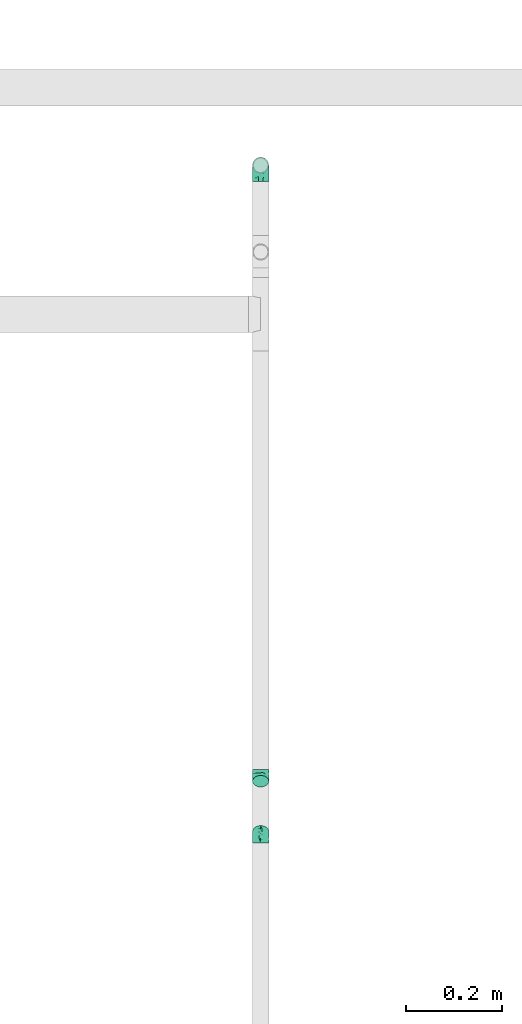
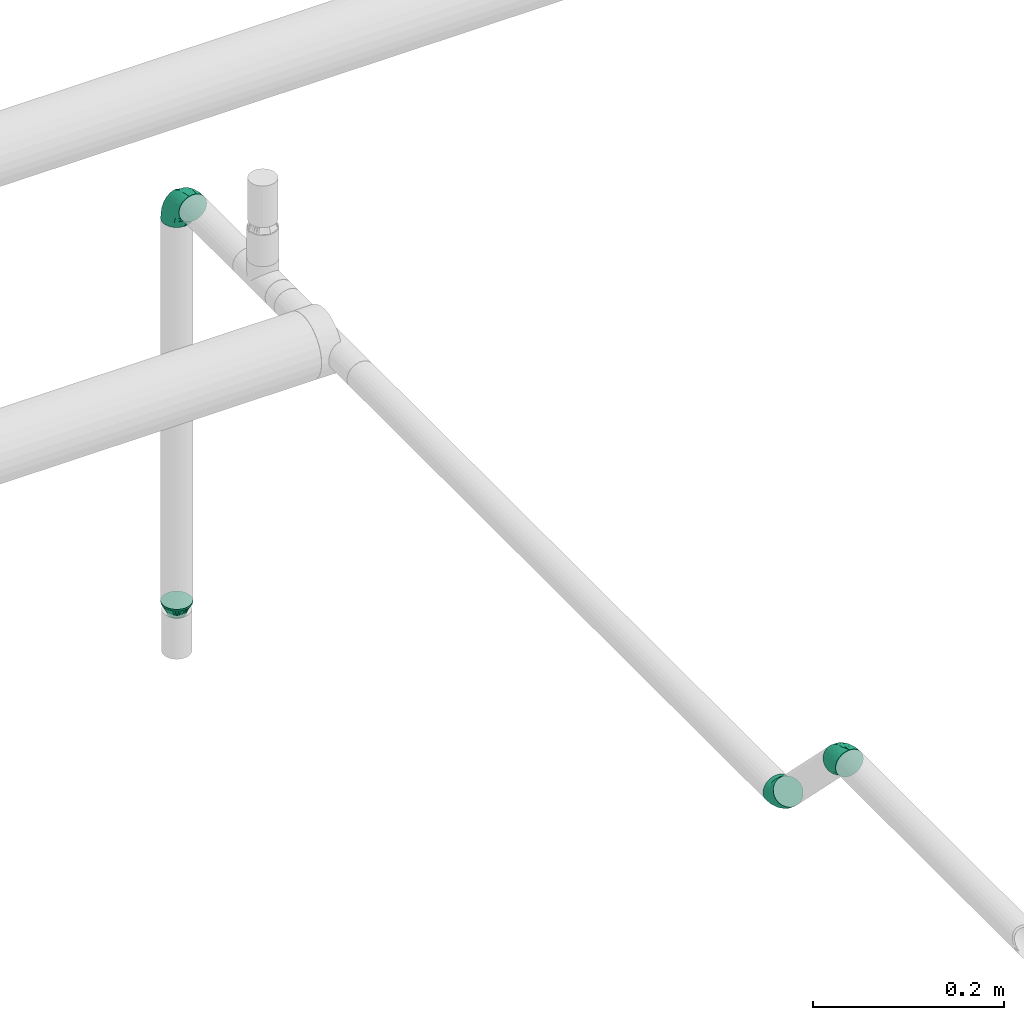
# One storey, part 17 of 51: 4 flow fittings.
"""IFC2X3 building model written with IfcOpenShell, lengths in millimetres."""

from ifc_helpers import new_model, entity, si_unit, converted_unit, derived_unit, direction, frame, origin_with_axes, place, context, subcontext, project, spatial, open_shell, surface_model, source, transform, mapped, type_object, element, save


model = new_model("IFC2X3")

# Units and contexts
model_context = context("Model", 3, precision=0.01, world=frame((0.0, 4.29681676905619e-09, 0.0)), true_north=direction((4.01073788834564e-13, 1.0)))
plan_context = context("Plan", 3, precision=0.01, world=frame((0.0, 4.29681676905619e-09, 0.0)), true_north=direction((4.01073788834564e-13, 1.0)))
body_context = subcontext(model_context, "Body", "Model", "MODEL_VIEW")
ifc_project = project(units=[converted_unit("PLANEANGLEUNIT", "DEGREE", entity("IfcPositiveLengthMeasure", 0.0174532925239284), si_unit("PLANEANGLEUNIT", "RADIAN"), dimensions=[0, 0, 0, 0, 0, 0, 0]), si_unit("AREAUNIT", "SQUARE_METRE"), si_unit("LENGTHUNIT", "METRE", prefix="MILLI"), si_unit("MASSUNIT", "GRAM", prefix="KILO"), si_unit("POWERUNIT", "WATT"), si_unit("PRESSUREUNIT", "PASCAL"), si_unit("FORCEUNIT", "NEWTON", prefix="KILO"), si_unit("ELECTRICVOLTAGEUNIT", "VOLT"), si_unit("ELECTRICCURRENTUNIT", "AMPERE"), si_unit("THERMODYNAMICTEMPERATUREUNIT", "DEGREE_CELSIUS"), si_unit("TIMEUNIT", "SECOND"), si_unit("VOLUMEUNIT", "CUBIC_METRE"), derived_unit("LINEARVELOCITYUNIT", [(si_unit("LENGTHUNIT", "METRE"), 1), (si_unit("TIMEUNIT", "SECOND"), -1)]), derived_unit("VOLUMETRICFLOWRATEUNIT", [(si_unit("VOLUMEUNIT", "CUBIC_METRE"), 1), (si_unit("TIMEUNIT", "SECOND"), -1)]), derived_unit("THERMALTRANSMITTANCEUNIT", [(si_unit("POWERUNIT", "WATT"), 1), (si_unit("THERMODYNAMICTEMPERATUREUNIT", "KELVIN"), -1), (si_unit("AREAUNIT", "SQUARE_METRE"), -1)]), derived_unit("SOUNDPRESSUREUNIT", [(si_unit("PRESSUREUNIT", "PASCAL"), 1)])], contexts=[model_context, plan_context])

# Site, building, storey
site_placement = place(None, frame((0.0, -4.29681676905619e-09, 0.0), z_axis=(0.0, 0.0, 1.0), x_axis=(1.0, 0.0, 0.0)))
site = spatial("IfcSite", under=ifc_project, at=site_placement, Name="ENGM", CompositionType="ELEMENT")
building_placement = place(site_placement, frame((0.0, 4.29681676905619e-09, 0.0), z_axis=(0.0, 0.0, 1.0), x_axis=(1.0, 0.0, 0.0)))
building = spatial("IfcBuilding", under=site, at=building_placement, Name="TH", CompositionType="ELEMENT")
storey_placement = place(building_placement, frame((0.0, 0.0, 210200.0), z_axis=(0.0, 0.0, 1.0), x_axis=(1.0, 0.0, 0.0)))
storey = spatial("IfcBuildingStorey", under=building, at=storey_placement, Name="Nivå F - 0,7 m", CompositionType="ELEMENT", Elevation=210200.0)

# Flow fittings
pipe_fitting_type_1 = type_object("IfcPipeFittingType", Name="magi_pipe_fe_elbow_short_001", PredefinedType="BEND")
shared_shape_1 = source(origin_with_axes(), body_context, "Body", "SurfaceModel", [
    surface_model("IfcShellBasedSurfaceModel", [(-33.8, 8.45, -14.63583), (-33.8, 4.37404, -16.32415), (-33.8, 11.9501, -11.9501), (-33.8, -11.9501, -11.9501), (-33.8, -14.63583, -8.45), (-33.8, -8.45, -14.63583), (-33.8, 0.0, -16.9), (-33.8, -4.37404, -16.32415), (-33.8, -4.37404, 16.32415), (-33.8, 0.0, 16.9), (-33.8, -8.45, 14.63583), (-33.8, 16.32415, -4.37404), (-33.8, 14.63583, -8.45), (-33.8, -16.32415, -4.37404), (-33.8, -16.9, 0.0), (-33.8, -16.32415, 4.37404), (-33.8, 11.9501, 11.9501), (-33.8, 14.63583, 8.45), (-33.8, 16.32415, 4.37404), (-33.8, 4.37404, 16.32415), (-33.8, 8.45, 14.63583), (-33.8, -14.63583, 8.45), (-33.8, -11.9501, 11.9501), (-33.8, 16.9, 0.0), (-11.9501, 33.8, -11.9501), (0.0, 33.8, -16.9), (-4.37404, 33.8, -16.32415), (-8.45, 33.8, -14.63583), (-14.63583, 33.8, -8.45), (-16.32415, 33.8, -4.37404), (14.63583, 33.8, -8.45), (8.45, 33.8, 14.63583), (16.32415, 33.8, -4.37404), (8.45, 33.8, -14.63583), (11.9501, 33.8, -11.9501), (4.37404, 33.8, -16.32415), (16.32415, 33.8, 4.37404), (16.9, 33.8, 0.0), (-11.9501, 33.8, 11.9501), (-16.32415, 33.8, 4.37404), (-14.63583, 33.8, 8.45), (-8.45, 33.8, 14.63583), (-4.37404, 33.8, 16.32415), (11.9501, 33.8, 11.9501), (14.63583, 33.8, 8.45), (0.0, 33.8, 16.9), (4.37404, 33.8, 16.32415), (-16.9, 33.8, 0.0), (-24.79389, -13.12945, 9.48721), (-22.19287, -9.75018, 12.59315), (-24.09897, -14.97035, 0.0), (-14.93934, -10.76256, 8.5297), (-22.46095, -14.75051, 5.27077), (14.75051, 22.46094, 5.27077), (11.9251, 13.23888, 4.33236), (13.04069, 14.39795, 0.0), (7.71387, 13.68847, 11.55891), (9.75018, 22.19287, 12.59315), (4.10169, 13.0571, 14.04018), (-24.84007, -6.39063, 15.2048), (-25.81779, -2.23879, 16.61097), (-23.66549, 2.59054, 16.87119), (-26.50418, 14.06512, 11.08152), (-24.21253, 17.66365, 7.72657), (-29.58514, 15.86957, 7.00283), (-6.17382, -7.5455, 0.0), (-13.23888, -11.9251, 4.33236), (-14.39795, -13.04069, 0.0), (-17.81434, 18.87373, 11.97104), (-6.30846, 29.15138, 15.82987), (-2.31622, 25.28002, 16.85849), (-29.23923, 10.23435, 13.77053), (-1.45439, -2.85688, 7.61475), (-0.28326, 0.34872, 10.09509), (-5.74484, -4.04709, 10.4122), (-4.41137, 11.31918, 16.59407), (-8.39727, 3.10034, 15.7812), (-1.72649, 9.1306, 15.53089), (-17.39909, 24.75344, 7.64977), (-26.19233, 20.0512, 0.0), (-28.14518, 17.29657, 4.25857), (-26.05147, 6.6281, 15.96447), (-5.87354, 16.61944, 16.86968), (-12.51807, 12.51807, 16.48937), (-10.06312, 7.38516, 16.81295), (-3.01882, 3.01882, 13.81718), (-13.0571, -4.10169, 14.04018), (-16.82553, -0.15166, 16.38038), (10.76256, 14.93934, 8.5297), (13.12945, 24.79389, 9.48721), (6.39063, 24.84007, 15.2048), (2.23879, 25.81779, 16.61097), (-13.68847, -7.71387, 11.55891), (14.97035, 24.09897, 0.0), (-7.30894, 22.89991, 16.09489), (-10.67958, 26.17414, 14.008), (-12.78295, 18.26924, 15.06066), (-13.88562, 22.45231, 12.93244), (-18.04944, 15.16501, 14.04434), (-23.11658, 20.08178, 4.02986), (-21.84989, 21.84989, 0.0), (-18.55817, 25.48277, 3.93065), (-13.95142, 26.94732, 11.03289), (-18.57098, 7.23906, 16.59756), (-16.58335, 4.14122, 16.89279), (-17.96666, 11.46709, 15.63151), (-9.84453, 17.54304, 16.18938), (0.15166, 16.82553, 16.38038), (-23.27207, 11.47201, 14.23154), (3.84842, 5.86994, 10.70473), (-8.0212, -7.54413, 7.93275), (1.00345, -2.19508, 4.57414), (5.13203, 3.01004, 5.90201), (5.24161, 1.7543, 2.53265), (8.70457, 7.04947, 3.99182), (-20.0512, 26.19233, 0.0), (8.4852, 8.76699, 7.09296), (-4.55488, -6.72064, 4.90681), (2.05031, -2.05031, 0.0), (7.5455, 6.17382, 0.0), (-26.75399, 2.1369, -16.845), (-14.61995, 24.73803, -11.27736), (-28.45274, -13.45335, -9.81895), (-26.00469, 6.63555, -15.96645), (-23.06726, 20.04573, -4.26202), (-13.80647, -4.26506, -14.17873), (-14.67501, -0.21081, -16.07388), (-6.7902, -0.2828, -13.8478), (-24.53586, 11.08096, -14.13417), (-26.72048, 14.00837, -11.05776), (10.0967, 24.44989, -12.75976), (5.83237, 21.40218, -15.03047), (6.66249, 28.54238, -15.38093), (-20.38182, 15.48705, -12.74596), (12.53268, 21.23441, -9.15363), (12.54494, 15.67504, -5.54878), (9.7522, 12.89279, -8.66343), (-15.65186, 19.64213, -13.01327), (-12.03528, 20.66498, -14.67665), (-15.61907, 15.61906, -14.83879), (-25.56551, -15.26206, 0.0), (-24.65452, -15.12934, -5.50955), (13.45335, 28.45274, -9.81895), (15.12934, 24.65452, -5.50955), (-7.35442, -8.31014, -5.65563), (-15.67504, -12.54494, -5.54878), (-24.44989, -10.0967, -12.75976), (0.16522, 0.41303, -9.71728), (-5.70658, -5.33066, -8.89288), (-5.13869, -2.37198, -11.53565), (-21.23441, -12.53268, -9.15363), (0.71146, 7.93863, -14.09382), (0.21081, 14.67501, -16.07388), (3.49291, 14.42772, -14.76381), (-24.89911, -2.13088, -16.591), (-28.54238, -6.66249, -15.38093), (-18.44386, -7.71663, -13.26957), (2.13088, 24.89911, -16.591), (-28.64342, 17.44413, -2.89318), (1.70017, -1.28722, -5.09504), (-16.57067, 26.81947, -7.36596), (-17.69055, 27.4263, -3.76405), (-12.89279, -9.7522, -8.66343), (-5.96611, 5.96611, -15.95814), (-20.53709, 20.09345, -8.28985), (-2.1369, 26.75399, -16.845), (-6.89872, 24.58781, -16.02578), (-10.60739, 26.53157, -13.98044), (-21.40218, -5.83237, -15.03047), (2.93192, 5.89627, -11.55917), (6.89393, 12.61842, -11.82233), (5.58056, 5.95325, -8.79455), (-3.99512, 18.61798, -16.89635), (8.31014, 7.35442, -5.65563), (-9.1383, 9.86148, -16.89041), (-9.99983, 16.02119, -16.39699), (-16.68576, 9.78031, -16.34199), (-27.01915, 16.61158, -7.12979), (15.26206, 25.56551, 0.0), (-18.61798, 3.99512, -16.89635), (-19.37495, 27.82495, 0.0), (-12.61842, -6.89393, -11.82233), (-18.84705, 19.14018, -10.96545)], [open_shell([[[0, 1, 2]], [[3, 4, 5]], [[6, 7, 5]], [[8, 9, 10]], [[1, 6, 2]], [[11, 12, 2]], [[4, 2, 6]], [[2, 13, 10]], [[5, 4, 6]], [[2, 4, 13]], [[14, 15, 13]], [[11, 2, 16]], [[11, 17, 18]], [[11, 16, 17]], [[19, 20, 16]], [[16, 2, 10]], [[19, 16, 10]], [[21, 22, 15]], [[22, 13, 15]], [[22, 10, 13]], [[10, 9, 19]], [[11, 18, 23]], [[24, 25, 26]], [[24, 26, 27]], [[24, 28, 29]], [[25, 24, 30]], [[31, 32, 24]], [[33, 30, 34]], [[33, 35, 25]], [[25, 30, 33]], [[32, 30, 24]], [[32, 36, 37]], [[38, 24, 29]], [[39, 40, 29]], [[40, 38, 29]], [[38, 41, 42]], [[38, 31, 24]], [[31, 38, 42]], [[36, 43, 44]], [[36, 32, 43]], [[31, 45, 46]], [[32, 31, 43]], [[42, 45, 31]], [[39, 29, 47]], [[22, 48, 49]], [[15, 14, 50]], [[51, 48, 52]], [[53, 54, 55]], [[48, 22, 21]], [[15, 52, 21]], [[56, 57, 58]], [[49, 10, 22]], [[49, 59, 10]], [[9, 60, 61]], [[62, 63, 64]], [[65, 66, 67]], [[57, 43, 31]], [[62, 68, 63]], [[42, 69, 70]], [[20, 71, 16]], [[8, 60, 9]], [[72, 73, 74]], [[75, 76, 77]], [[16, 62, 17]], [[40, 39, 78]], [[79, 23, 80]], [[64, 18, 17]], [[9, 61, 19]], [[19, 81, 20]], [[82, 83, 84]], [[74, 85, 86]], [[59, 86, 87]], [[88, 89, 57]], [[90, 31, 46]], [[44, 53, 36]], [[46, 45, 91]], [[54, 53, 88]], [[44, 89, 53]], [[92, 86, 49]], [[89, 44, 43]], [[10, 59, 8]], [[53, 55, 93]], [[93, 36, 53]], [[66, 52, 67]], [[94, 82, 70]], [[95, 96, 94]], [[97, 98, 96]], [[79, 99, 100]], [[41, 38, 95]], [[101, 100, 99]], [[68, 78, 63]], [[42, 41, 69]], [[23, 18, 80]], [[95, 94, 69]], [[78, 101, 99]], [[38, 102, 95]], [[70, 45, 42]], [[97, 95, 102]], [[15, 50, 52]], [[90, 57, 31]], [[57, 90, 58]], [[81, 19, 61]], [[103, 104, 84]], [[105, 81, 103]], [[38, 40, 102]], [[106, 96, 83]], [[94, 106, 82]], [[91, 70, 107]], [[71, 62, 16]], [[62, 108, 98]], [[86, 59, 49]], [[67, 52, 50]], [[60, 59, 87]], [[92, 49, 51]], [[86, 85, 76]], [[91, 90, 46]], [[37, 36, 93]], [[107, 77, 58]], [[107, 58, 90]], [[58, 85, 109]], [[110, 74, 92]], [[72, 74, 110]], [[66, 51, 52]], [[72, 111, 112]], [[113, 114, 112]], [[56, 88, 57]], [[52, 48, 21]], [[49, 48, 51]], [[57, 89, 43]], [[53, 89, 88]], [[103, 81, 61]], [[71, 81, 108]], [[18, 64, 80]], [[63, 78, 99]], [[47, 115, 101]], [[101, 115, 100]], [[40, 78, 102]], [[68, 102, 78]], [[97, 96, 95]], [[105, 98, 108]], [[103, 84, 83]], [[107, 70, 82]], [[76, 84, 87]], [[82, 84, 75]], [[70, 91, 45]], [[90, 91, 107]], [[59, 60, 8]], [[61, 60, 87]], [[73, 85, 74]], [[109, 112, 116]], [[103, 61, 104]], [[105, 103, 83]], [[96, 105, 83]], [[81, 105, 108]], [[96, 98, 105]], [[62, 98, 68]], [[61, 87, 104]], [[87, 84, 104]], [[86, 76, 87]], [[77, 76, 85]], [[58, 77, 85]], [[75, 77, 107]], [[82, 75, 107]], [[76, 75, 84]], [[81, 71, 20]], [[62, 71, 108]], [[95, 69, 41]], [[70, 69, 94]], [[62, 64, 17]], [[80, 63, 99]], [[63, 80, 64]], [[80, 99, 79]], [[66, 65, 117]], [[110, 66, 117]], [[112, 114, 116]], [[118, 117, 65]], [[110, 92, 51]], [[112, 111, 113]], [[119, 55, 54]], [[74, 86, 92]], [[58, 109, 56]], [[116, 56, 109]], [[66, 110, 51]], [[72, 110, 117]], [[111, 72, 117]], [[73, 112, 109]], [[117, 118, 111]], [[113, 111, 118]], [[118, 119, 113]], [[114, 119, 54]], [[119, 114, 113]], [[116, 54, 88]], [[54, 116, 114]], [[116, 88, 56]], [[112, 73, 72]], [[85, 73, 109]], [[78, 39, 101]], [[47, 101, 39]], [[102, 68, 97]], [[97, 68, 98]], [[82, 106, 83]], [[94, 96, 106]], [[1, 120, 6]], [[28, 24, 121]], [[3, 122, 4]], [[0, 123, 1]], [[100, 124, 79]], [[125, 126, 127]], [[128, 2, 129]], [[130, 131, 132]], [[128, 129, 133]], [[134, 135, 136]], [[137, 138, 139]], [[128, 0, 2]], [[67, 140, 141]], [[134, 142, 143]], [[141, 13, 4]], [[144, 65, 145]], [[146, 3, 5]], [[147, 148, 149]], [[145, 141, 150]], [[151, 152, 153]], [[154, 7, 6]], [[5, 155, 146]], [[150, 146, 156]], [[155, 5, 7]], [[143, 135, 134]], [[35, 157, 25]], [[23, 79, 158]], [[148, 159, 144]], [[160, 161, 29]], [[145, 162, 144]], [[163, 152, 151]], [[29, 28, 160]], [[121, 164, 160]], [[33, 34, 130]], [[25, 165, 26]], [[26, 165, 166]], [[142, 34, 30]], [[24, 27, 167]], [[124, 161, 164]], [[157, 35, 132]], [[155, 154, 168]], [[123, 0, 128]], [[169, 170, 171]], [[172, 157, 152]], [[26, 166, 27]], [[132, 35, 33]], [[142, 130, 34]], [[168, 154, 126]], [[136, 135, 173]], [[133, 137, 139]], [[2, 12, 129]], [[170, 131, 130]], [[30, 32, 143]], [[172, 174, 175]], [[176, 123, 128]], [[158, 177, 11]], [[135, 55, 119]], [[167, 27, 166]], [[175, 166, 172]], [[137, 167, 138]], [[122, 141, 4]], [[140, 14, 13]], [[32, 37, 178]], [[170, 130, 134]], [[152, 157, 131]], [[165, 157, 172]], [[153, 170, 151]], [[152, 163, 174]], [[168, 125, 156]], [[122, 146, 150]], [[120, 154, 6]], [[179, 174, 126]], [[179, 126, 154]], [[126, 163, 127]], [[162, 145, 150]], [[140, 13, 141]], [[32, 178, 143]], [[55, 143, 178]], [[177, 129, 12]], [[128, 133, 139]], [[176, 128, 139]], [[120, 123, 179]], [[121, 160, 28]], [[161, 100, 180]], [[166, 175, 138]], [[121, 24, 167]], [[161, 47, 29]], [[79, 124, 158]], [[124, 164, 177]], [[161, 124, 100]], [[136, 171, 170]], [[127, 163, 151]], [[147, 171, 159]], [[148, 144, 162]], [[127, 151, 169]], [[127, 181, 125]], [[129, 177, 164]], [[12, 11, 177]], [[159, 65, 144]], [[67, 141, 145]], [[143, 55, 135]], [[135, 119, 173]], [[123, 120, 1]], [[154, 120, 179]], [[157, 165, 25]], [[166, 165, 172]], [[172, 152, 174]], [[176, 139, 175]], [[126, 174, 163]], [[176, 174, 179]], [[174, 176, 175]], [[123, 176, 179]], [[150, 181, 162]], [[127, 149, 181]], [[181, 148, 162]], [[159, 148, 147]], [[171, 136, 173]], [[170, 134, 136]], [[159, 171, 173]], [[171, 147, 169]], [[169, 147, 149]], [[151, 170, 169]], [[164, 182, 129]], [[182, 121, 137]], [[181, 149, 148]], [[169, 149, 127]], [[182, 137, 133]], [[167, 137, 121]], [[166, 138, 167]], [[175, 139, 138]], [[129, 182, 133]], [[121, 182, 164]], [[161, 160, 164]], [[47, 161, 180]], [[177, 158, 124]], [[23, 158, 11]], [[130, 132, 33]], [[157, 132, 131]], [[143, 142, 30]], [[130, 142, 134]], [[154, 155, 7]], [[146, 155, 168]], [[146, 122, 3]], [[141, 122, 150]], [[152, 131, 153]], [[159, 119, 118]], [[67, 145, 65]], [[170, 153, 131]], [[119, 159, 173]], [[159, 118, 65]], [[156, 125, 181]], [[126, 125, 168]], [[150, 156, 181]], [[168, 156, 146]]])]),
])
flow_fitting_1_placement = place(storey_placement, frame((897100.0, 484168.69816, 2933.0), z_axis=(-1.0, 0.0, 0.0), x_axis=(0.0, 1.0, 0.0)))
element("IfcFlowFitting", 1, at=flow_fitting_1_placement, inside=storey, type_object=pipe_fitting_type_1, Name="magi_pipe_fe_elbow_short_001", context=body_context, shape_type="MappedRepresentation", body=[
    mapped(shared_shape_1, transform((0.0, 0.0, 0.0), scale=1.0)),
])
pipe_fitting_type_2 = type_object("IfcPipeFittingType", Name="magi_pipe_fe_reducer_centric_short_NOR", PredefinedType="TRANSITION")
shared_shape_2 = source(origin_with_axes(), body_context, "Body", "SurfaceModel", [
    surface_model("IfcShellBasedSurfaceModel", [(14.4, 5.35, -9.26647), (14.4, 0.0, -10.7), (14.4, 2.76936, -10.33541), (14.4, 10.33541, -2.76936), (14.4, 7.56604, -7.56604), (14.4, 9.26647, -5.35), (14.4, -5.35, -9.26647), (14.4, -2.76936, -10.33541), (14.4, -7.56604, -7.56604), (14.4, -10.33541, -2.76936), (14.4, -9.26647, -5.35), (14.4, 10.33541, 2.76936), (14.4, 9.26647, 5.35), (14.4, 7.56604, 7.56604), (14.4, 2.76936, 10.33541), (14.4, 5.35, 9.26647), (14.4, -7.56604, 7.56604), (14.4, -2.76936, 10.33541), (14.4, -5.35, 9.26647), (12.4, 7.56604, 7.56604), (12.4, 9.26647, 5.35), (12.4, 10.33541, 2.76936), (12.4, -2.76936, 10.33541), (12.4, -7.56604, 7.56604), (12.4, -5.35, 9.26647), (12.4, -10.33541, 2.76936), (12.4, -9.26647, 5.35), (12.4, 0.0, 10.7), (12.4, -10.33541, -2.76936), (12.4, -10.7, 0.0), (12.4, -5.35, -9.26647), (12.4, 0.0, -10.7), (12.4, -2.76936, -10.33541), (12.4, 2.76936, -10.33541), (12.4, 10.33541, -2.76936), (12.4, 10.7, 0.0), (12.4, -9.26647, -5.35), (12.4, -7.56604, -7.56604), (14.4, -10.7, 0.0), (12.4, 5.35, -9.26647), (12.4, 7.56604, -7.56604), (12.4, 9.26647, -5.35), (14.4, 10.7, 0.0), (12.4, 5.35, 9.26647), (12.4, 2.76936, 10.33541), (14.4, 0.0, 10.7), (14.4, -9.26647, 5.35), (14.4, -10.33541, 2.76936), (-2.0, 11.9501, 11.9501), (-2.0, 0.0, 16.9), (-2.0, 4.37404, 16.32415), (-2.0, 8.45, 14.63583), (-2.0, 14.63583, 8.45), (-2.0, 16.32415, 4.37404), (-2.0, -16.32415, 4.37404), (-2.0, -8.45, 14.63583), (-2.0, -14.63583, 8.45), (-2.0, -11.9501, 11.9501), (-2.0, -4.37404, 16.32415), (-2.0, -16.32415, -4.37404), (-2.0, -16.9, 0.0), (-2.0, -8.45, -14.63583), (-2.0, 16.32415, -4.37404), (-2.0, 11.9501, -11.9501), (-2.0, 14.63583, -8.45), (-2.0, 8.45, -14.63583), (-2.0, 4.37404, -16.32415), (-2.0, 0.0, -16.9), (-2.0, -11.9501, -11.9501), (-2.0, -14.63583, -8.45), (-2.0, -4.37404, -16.32415), (-2.0, 16.9, 0.0), (0.0, 4.37404, -16.32415), (0.0, 8.45, -14.63583), (0.0, 11.9501, -11.9501), (0.0, 0.0, -16.9), (0.0, 16.32415, -4.37404), (0.0, 16.32415, 4.37404), (0.0, 14.63583, -8.45), (0.0, -8.45, -14.63583), (0.0, -4.37404, -16.32415), (0.0, -11.9501, -11.9501), (0.0, -16.32415, -4.37404), (0.0, -14.63583, -8.45), (0.0, -16.32415, 4.37404), (0.0, 16.9, 0.0), (0.0, 14.63583, 8.45), (0.0, 11.9501, 11.9501), (0.0, 4.37404, 16.32415), (0.0, 8.45, 14.63583), (0.0, 0.0, 16.9), (0.0, -14.63583, 8.45), (0.0, -16.9, 0.0), (0.0, -8.45, 14.63583), (0.0, -11.9501, 11.9501), (0.0, -4.37404, 16.32415), (12.4, 9.3625, -2.31662), (0.0, 14.42505, -5.97505), (0.0, 15.66253, -2.98753), (12.4, -6.6875, -6.94985), (0.0, -13.18758, -8.96258), (0.0, 2.98753, -15.66253), (12.4, 0.0, -9.26647), (12.4, 6.6875, -6.94985), (0.0, 8.96258, -13.18758), (12.4, -9.3625, -2.31662), (0.0, -15.66253, -2.98753), (0.0, -14.42505, -5.97505), (0.0, 5.97505, -14.42505), (0.0, -2.98753, -15.66253), (0.0, -8.96258, -13.18758), (0.0, 13.18758, -8.96258), (12.4, 8.025, -4.63324), (12.4, -2.675, -9.26647), (12.4, 2.675, -9.26647), (0.0, -5.97505, -14.42505), (12.4, -8.025, -4.63324), (12.4, -9.3625, 2.31662), (0.0, -14.42505, 5.97505), (0.0, -15.66253, 2.98753), (12.4, 6.6875, 6.94985), (0.0, 13.18758, 8.96258), (0.0, -2.98753, 15.66253), (12.4, 0.0, 9.26647), (12.4, -6.6875, 6.94985), (0.0, -8.96258, 13.18758), (12.4, 9.3625, 2.31662), (0.0, 15.66253, 2.98753), (0.0, 14.42505, 5.97505), (0.0, -5.97505, 14.42505), (0.0, 2.98753, 15.66253), (0.0, 8.96258, 13.18758), (0.0, -13.18758, 8.96258), (12.4, -8.025, 4.63324), (12.4, 2.675, 9.26647), (12.4, -2.675, 9.26647), (0.0, 5.97505, 14.42505), (12.4, 8.025, 4.63324)], [open_shell([[[0, 1, 2]], [[3, 0, 4]], [[3, 4, 5]], [[1, 6, 7]], [[1, 0, 6]], [[8, 9, 10]], [[9, 8, 6]], [[11, 12, 13]], [[14, 13, 15]], [[16, 17, 18]], [[19, 20, 21]], [[22, 23, 24]], [[23, 22, 25]], [[23, 25, 26]], [[22, 27, 25]], [[25, 28, 29]], [[30, 31, 32]], [[30, 28, 33]], [[33, 31, 30]], [[34, 21, 35]], [[28, 9, 29]], [[36, 10, 28]], [[6, 37, 30]], [[36, 37, 8]], [[7, 30, 32]], [[28, 10, 9]], [[9, 38, 29]], [[7, 6, 30]], [[8, 37, 6]], [[8, 10, 36]], [[1, 7, 32]], [[32, 31, 1]], [[33, 2, 31]], [[39, 0, 33]], [[5, 40, 41]], [[39, 40, 4]], [[3, 41, 34]], [[39, 4, 0]], [[0, 2, 33]], [[42, 3, 34]], [[5, 41, 3]], [[5, 4, 40]], [[35, 42, 34]], [[31, 2, 1]], [[21, 11, 35]], [[20, 12, 21]], [[15, 19, 43]], [[20, 19, 13]], [[14, 43, 44]], [[21, 12, 11]], [[11, 42, 35]], [[14, 15, 43]], [[13, 19, 15]], [[13, 12, 20]], [[45, 14, 44]], [[44, 27, 45]], [[22, 17, 27]], [[24, 18, 22]], [[46, 23, 26]], [[24, 23, 16]], [[47, 26, 25]], [[24, 16, 18]], [[18, 17, 22]], [[38, 47, 25]], [[46, 26, 47]], [[46, 16, 23]], [[29, 38, 25]], [[27, 17, 45]], [[48, 49, 50]], [[48, 50, 51]], [[48, 52, 53]], [[48, 53, 49]], [[49, 53, 54]], [[55, 56, 57]], [[55, 58, 49]], [[56, 55, 49]], [[49, 54, 56]], [[54, 59, 60]], [[54, 53, 61]], [[53, 62, 63]], [[63, 62, 64]], [[63, 65, 66]], [[61, 53, 63]], [[67, 63, 66]], [[59, 68, 69]], [[68, 59, 61]], [[61, 67, 70]], [[59, 54, 61]], [[63, 67, 61]], [[53, 71, 62]], [[72, 73, 74]], [[75, 72, 74]], [[74, 76, 77]], [[76, 74, 78]], [[74, 77, 79]], [[75, 79, 80]], [[75, 74, 79]], [[81, 82, 83]], [[82, 81, 79]], [[79, 84, 82]], [[77, 76, 85]], [[77, 86, 87]], [[77, 87, 88]], [[88, 84, 79]], [[88, 87, 89]], [[84, 88, 90]], [[90, 91, 84]], [[92, 82, 84]], [[91, 93, 94]], [[91, 90, 93]], [[93, 90, 95]], [[79, 77, 88]], [[59, 82, 60]], [[69, 83, 59]], [[79, 68, 61]], [[69, 68, 81]], [[80, 61, 70]], [[59, 83, 82]], [[82, 92, 60]], [[80, 79, 61]], [[81, 68, 79]], [[81, 83, 69]], [[75, 80, 70]], [[70, 67, 75]], [[66, 72, 67]], [[65, 73, 66]], [[78, 63, 64]], [[65, 63, 74]], [[76, 64, 62]], [[65, 74, 73]], [[73, 72, 66]], [[85, 76, 62]], [[78, 64, 76]], [[78, 74, 63]], [[71, 85, 62]], [[67, 72, 75]], [[53, 77, 71]], [[52, 86, 53]], [[89, 48, 51]], [[52, 48, 87]], [[88, 51, 50]], [[53, 86, 77]], [[77, 85, 71]], [[88, 89, 51]], [[87, 48, 89]], [[87, 86, 52]], [[90, 88, 50]], [[50, 49, 90]], [[58, 95, 49]], [[55, 93, 58]], [[91, 57, 56]], [[55, 57, 94]], [[84, 56, 54]], [[55, 94, 93]], [[93, 95, 58]], [[92, 84, 54]], [[91, 56, 84]], [[91, 94, 57]], [[60, 92, 54]], [[49, 95, 90]], [[43, 24, 35]], [[35, 24, 30]], [[30, 39, 35]], [[30, 24, 29]], [[87, 74, 92]], [[75, 92, 74]], [[81, 92, 75]], [[74, 87, 85]], [[96, 97, 98]], [[81, 99, 100]], [[101, 102, 75]], [[98, 85, 35]], [[74, 103, 104]], [[104, 103, 39]], [[105, 106, 107]], [[39, 108, 104]], [[102, 109, 75]], [[110, 99, 81]], [[35, 96, 98]], [[103, 111, 112]], [[109, 102, 113]], [[29, 92, 106]], [[102, 101, 114]], [[110, 115, 30]], [[96, 112, 97]], [[107, 116, 105]], [[29, 106, 105]], [[113, 115, 109]], [[30, 115, 113]], [[116, 107, 100]], [[108, 39, 114]], [[111, 103, 74]], [[111, 97, 112]], [[99, 110, 30]], [[116, 100, 99]], [[101, 108, 114]], [[117, 118, 119]], [[87, 120, 121]], [[122, 123, 90]], [[119, 92, 29]], [[94, 124, 125]], [[125, 124, 24]], [[126, 127, 128]], [[24, 129, 125]], [[123, 130, 90]], [[131, 120, 87]], [[29, 117, 119]], [[124, 132, 133]], [[130, 123, 134]], [[35, 85, 127]], [[123, 122, 135]], [[131, 136, 43]], [[117, 133, 118]], [[128, 137, 126]], [[35, 127, 126]], [[134, 136, 130]], [[43, 136, 134]], [[137, 128, 121]], [[129, 24, 135]], [[132, 124, 94]], [[132, 118, 133]], [[120, 131, 43]], [[137, 121, 120]], [[122, 129, 135]], [[6, 0, 3]], [[46, 6, 3]], [[6, 46, 9]], [[11, 3, 42]], [[3, 13, 46]], [[14, 45, 13]], [[46, 13, 45]], [[9, 47, 38]], [[46, 47, 9]], [[17, 16, 46]], [[45, 17, 46]], [[3, 11, 13]], [[27, 44, 43]], [[27, 43, 19]], [[27, 19, 25]], [[34, 25, 19]], [[34, 19, 21]], [[28, 25, 34]], [[33, 34, 41]], [[40, 39, 33]], [[40, 33, 41]], [[28, 34, 33]], [[28, 37, 36]], [[37, 28, 30]], [[90, 87, 92]], [[92, 94, 90]]])]),
])
flow_fitting_2_placement = place(storey_placement, frame((897100.0, 484168.69816, 2409.35200000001), z_axis=(0.0, -1.0, 0.0), x_axis=(0.0, 0.0, -1.0)))
element("IfcFlowFitting", 2, at=flow_fitting_2_placement, inside=storey, type_object=pipe_fitting_type_2, Name="magi_pipe_fe_reducer_centric_short_NOR", context=body_context, shape_type="MappedRepresentation", body=[
    mapped(shared_shape_2, transform((0.0, 0.0, 0.0), scale=1.0)),
])
shared_shape_3 = source(origin_with_axes(), body_context, "Body", "SurfaceModel", [
    surface_model("IfcShellBasedSurfaceModel", [(-14.00042, 4.37404, -16.32415), (-14.00042, 0.0, -16.9), (-14.00042, 11.9501, -11.9501), (-14.00042, 8.45, -14.63583), (-14.00042, 16.32415, -4.37404), (-14.00042, 14.63583, -8.45), (-14.00042, -14.63583, -8.45), (-14.00042, -16.32415, -4.37404), (-14.00042, -8.45, 14.63583), (-14.00042, -11.9501, -11.9501), (-14.00042, -8.45, -14.63583), (-14.00042, -4.37404, -16.32415), (-14.00042, -16.9, 0.0), (-14.00042, -16.32415, 4.37404), (-14.00042, 11.9501, 11.9501), (-14.00042, 16.32415, 4.37404), (-14.00042, 14.63583, 8.45), (-14.00042, 4.37404, 16.32415), (-14.00042, 8.45, 14.63583), (-14.00042, -14.63583, 8.45), (-14.00042, -11.9501, 11.9501), (-14.00042, -4.37404, 16.32415), (-14.00042, 0.0, 16.9), (-14.00042, 16.9, 0.0), (1.44979, 18.34979, -11.9501), (9.89979, 9.89979, -16.9), (6.80688, 12.99271, -16.32415), (3.92474, 15.87484, -14.63583), (-0.4493, 20.24888, -8.45), (-1.64312, 21.4427, -4.37404), (20.24888, -0.4493, -8.45), (15.87484, 3.92474, -14.63583), (18.34979, 1.44979, -11.9501), (12.99271, 6.80688, -16.32415), (15.87484, 3.92474, 14.63583), (21.4427, -1.64312, -4.37404), (21.4427, -1.64312, 4.37404), (21.84989, -2.05031, 0.0), (-2.05031, 21.84989, 0.0), (1.44979, 18.34979, 11.9501), (-1.64312, 21.4427, 4.37404), (-0.4493, 20.24888, 8.45), (3.92474, 15.87484, 14.63583), (6.80688, 12.99271, 16.32415), (20.24888, -0.4493, 8.45), (18.34979, 1.44979, 11.9501), (9.89979, 9.89979, 16.9), (12.99271, 6.80688, 16.32415), (-6.69642, -6.19709, 15.44573), (-3.73886, -9.55149, 13.0407), (1.73525, -4.18927, 15.2328), (-5.45721, -12.9253, 9.8956), (12.9984, -5.28073, 9.8956), (-5.04389, -1.62717, 16.6761), (-6.49351, 7.03255, 15.79912), (-1.60742, 3.88065, 16.84061), (-8.46768, 2.34185, 16.79744), (0.50163, 10.15992, 15.77375), (3.05513, 7.9997, 16.65419), (4.30433, -10.39156, 9.41786), (9.11709, 0.35308, 15.44573), (-6.96204, 16.80785, 6.94325), (-7.45285, 14.17314, 10.66504), (-4.80048, 11.58938, 13.79725), (1.45487, -14.20736, 2.98752), (7.72591, -11.71416, 2.98752), (4.99742, -12.06485, 5.88094), (-4.29939, -14.97035, 0.0), (-4.76236, -15.7636, 3.07885), (16.28713, -6.46486, 3.25046), (12.48134, -8.19596, 5.86894), (-6.7692, 18.10883, 3.55089), (-3.03023, -14.62106, 5.86894), (4.71716, 2.41599, 16.6761), (9.3977, -4.11015, 13.0407), (5.40163, -13.04069, 0.0), (13.62576, -7.5455, 0.0), (-7.53307, 18.18644, 0.0), (2.83663, -6.84823, 13.47681), (-5.04389, -1.62717, -16.6761), (9.01737, -11.07487, -2.98752), (2.82012, -13.74621, -2.98752), (4.99742, -12.06485, -5.88094), (4.71716, 2.41599, -16.6761), (-7.53886, 6.82944, -15.77375), (-7.81695, 3.49634, -16.65419), (-4.75196, 15.29189, -10.66504), (9.3977, -4.11015, -13.0407), (-6.96204, 16.80785, -6.94325), (12.48135, -8.19596, -5.86894), (-8.01833, 17.59142, -3.55089), (-0.38116, 9.56437, -15.79912), (-6.9454, -16.08809, -3.25046), (-3.03023, -14.62106, -5.86894), (4.30433, -10.39156, -9.41786), (12.9984, -5.28073, -9.8956), (-5.45721, -12.9253, -9.8956), (-3.73886, -9.55149, -13.0407), (2.83663, -6.84823, -13.47681), (-6.69642, -6.19709, -15.44573), (1.73525, -4.18927, -15.2328), (9.11709, 0.35308, -15.44573), (-1.60742, 3.88065, -16.84061), (-4.80048, 11.58938, -13.79725), (14.51405, -7.77905, -3.07885), (4.33161, 7.64349, -16.79744)], [open_shell([[[0, 1, 2]], [[3, 0, 2]], [[4, 5, 2]], [[6, 2, 1]], [[2, 7, 8]], [[9, 6, 10]], [[1, 11, 10]], [[1, 10, 6]], [[6, 7, 2]], [[12, 13, 7]], [[4, 2, 14]], [[14, 15, 4]], [[16, 15, 14]], [[17, 18, 14]], [[2, 8, 14]], [[17, 14, 8]], [[19, 20, 13]], [[13, 20, 7]], [[21, 22, 8]], [[20, 8, 7]], [[8, 22, 17]], [[23, 4, 15]], [[24, 25, 26]], [[24, 26, 27]], [[24, 28, 29]], [[25, 24, 30]], [[30, 24, 29]], [[31, 30, 32]], [[31, 33, 25]], [[30, 31, 25]], [[30, 34, 35]], [[35, 36, 37]], [[38, 30, 29]], [[39, 38, 40]], [[39, 40, 41]], [[39, 42, 43]], [[38, 39, 34]], [[34, 39, 43]], [[44, 34, 45]], [[36, 35, 44]], [[34, 46, 47]], [[44, 35, 34]], [[46, 34, 43]], [[30, 38, 34]], [[48, 49, 50]], [[20, 51, 49]], [[8, 20, 49]], [[44, 45, 52]], [[22, 21, 53]], [[21, 8, 48]], [[18, 17, 54]], [[55, 56, 53]], [[22, 56, 17]], [[43, 57, 58]], [[49, 51, 59]], [[34, 47, 60]], [[61, 16, 62]], [[63, 14, 18]], [[64, 65, 66]], [[67, 64, 68]], [[69, 36, 70]], [[61, 71, 15]], [[19, 13, 72]], [[23, 15, 71]], [[15, 16, 61]], [[20, 19, 51]], [[54, 63, 18]], [[72, 66, 59]], [[12, 67, 68]], [[42, 39, 63]], [[46, 58, 73]], [[45, 34, 74]], [[41, 40, 61]], [[73, 47, 46]], [[64, 67, 75]], [[45, 74, 52]], [[55, 58, 57]], [[74, 34, 60]], [[19, 72, 51]], [[76, 69, 65]], [[36, 69, 37]], [[56, 54, 17]], [[71, 61, 40]], [[77, 71, 38]], [[52, 59, 70]], [[49, 78, 50]], [[50, 73, 53]], [[43, 42, 57]], [[50, 60, 73]], [[61, 62, 41]], [[55, 53, 73]], [[39, 41, 62]], [[63, 54, 57]], [[48, 53, 21]], [[16, 14, 62]], [[36, 44, 70]], [[59, 51, 72]], [[78, 59, 74]], [[59, 52, 74]], [[70, 44, 52]], [[14, 63, 62]], [[39, 62, 63]], [[63, 57, 42]], [[55, 57, 54]], [[49, 48, 8]], [[53, 48, 50]], [[73, 60, 47]], [[74, 60, 50]], [[73, 58, 55]], [[46, 43, 58]], [[53, 56, 22]], [[54, 56, 55]], [[64, 66, 72]], [[70, 59, 66]], [[64, 72, 68]], [[65, 64, 75]], [[76, 65, 75]], [[70, 66, 65]], [[72, 13, 68]], [[12, 68, 13]], [[59, 78, 49]], [[74, 50, 78]], [[38, 71, 40]], [[71, 77, 23]], [[65, 69, 70]], [[37, 69, 76]], [[11, 1, 79]], [[80, 81, 82]], [[25, 33, 83]], [[84, 85, 0]], [[5, 86, 2]], [[31, 32, 87]], [[88, 86, 5]], [[30, 35, 89]], [[4, 90, 88]], [[27, 26, 91]], [[92, 7, 93]], [[3, 84, 0]], [[67, 92, 81]], [[94, 95, 89]], [[7, 92, 12]], [[96, 9, 97]], [[9, 10, 97]], [[98, 94, 97]], [[7, 6, 93]], [[9, 96, 6]], [[99, 10, 11]], [[96, 94, 93]], [[100, 79, 83]], [[101, 83, 33]], [[23, 77, 90]], [[80, 76, 75]], [[38, 29, 90]], [[102, 83, 79]], [[24, 27, 103]], [[88, 5, 4]], [[28, 86, 88]], [[99, 97, 10]], [[91, 103, 27]], [[85, 79, 1]], [[103, 91, 84]], [[2, 103, 3]], [[76, 80, 104]], [[25, 105, 26]], [[101, 33, 31]], [[89, 82, 94]], [[32, 30, 95]], [[87, 100, 101]], [[87, 95, 94]], [[100, 99, 79]], [[37, 76, 104]], [[28, 24, 86]], [[105, 91, 26]], [[95, 87, 32]], [[87, 98, 100]], [[105, 83, 102]], [[102, 85, 84]], [[29, 88, 90]], [[30, 89, 95]], [[29, 28, 88]], [[94, 96, 97]], [[93, 6, 96]], [[24, 103, 86]], [[2, 86, 103]], [[103, 84, 3]], [[102, 84, 91]], [[79, 99, 11]], [[97, 99, 100]], [[87, 101, 31]], [[83, 101, 100]], [[79, 85, 102]], [[1, 0, 85]], [[83, 105, 25]], [[91, 105, 102]], [[80, 82, 89]], [[93, 94, 82]], [[80, 89, 104]], [[81, 80, 75]], [[67, 81, 75]], [[93, 82, 81]], [[89, 35, 104]], [[37, 104, 35]], [[94, 98, 87]], [[97, 100, 98]], [[23, 90, 4]], [[90, 77, 38]], [[81, 92, 93]], [[12, 92, 67]]])]),
])
for number, where, z_axis, x_axis, name in (
    (3, (897100.0, 482899.03583, 2933.0), (-1.0, 0.0, 0.0), (0.0, -1.0, 0.0), "magi_pipe_fe_elbow_short_001"),
    (4, (897100.0, 482775.08383, 3056.95199999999), (1.0, 0.0, 0.0), (0.0, -0.707106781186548, 0.707106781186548), "magi_pipe_fe_elbow_short_001"),
):
    element("IfcFlowFitting", number, at=place(storey_placement, frame(where, z_axis=z_axis, x_axis=x_axis)), inside=storey, type_object=pipe_fitting_type_1, Name=name, context=body_context, shape_type="MappedRepresentation", body=[
        mapped(shared_shape_3, transform((0.0, 0.0, 0.0), scale=1.0)),
    ])

save(model, "model.ifc")
